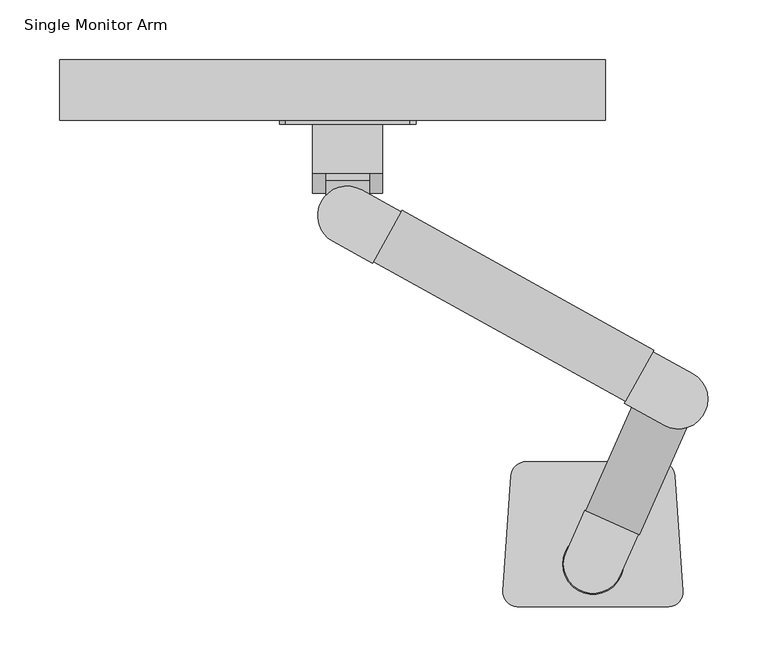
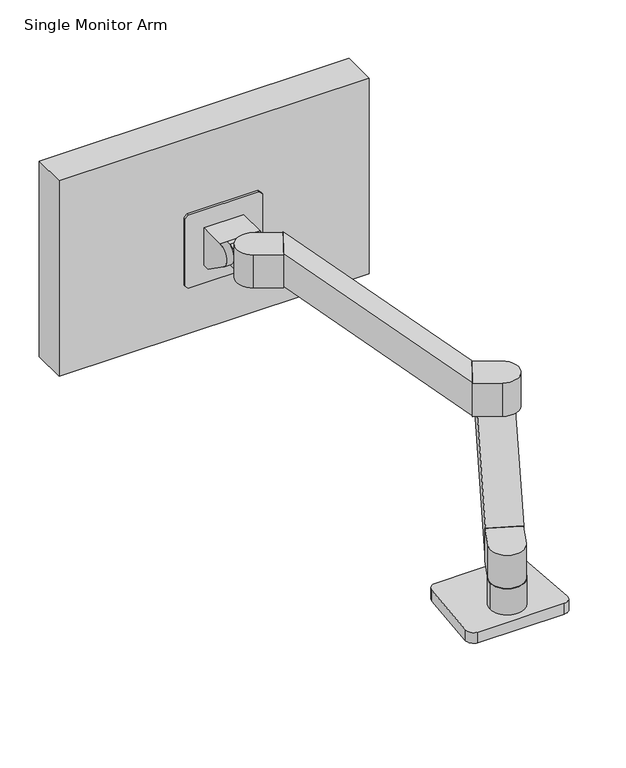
"""IFC4 building model written with IfcOpenShell, lengths in millimetres: furniture geometry, Haworth_Ergotron_MonitorArm_LX Dual : Single Monitor Arm."""

from ifc_helpers import new_model, si_unit, point, frame, frame_2d, origin, origin_2d, place, context, project, spatial, polyline, circle_curve, ellipse_curve, trimmed, segment, composite_curve, outline, extrude, source, transform, mapped, element, save
from ifc_brep_helpers import plane_surface, cylinder_surface, advanced_brep


def single_monitor_arm_2e3e4fff(model_context):
    return source(origin(), model_context, "Body", "SolidModel", [
        advanced_brep(
        [(-234.9867613, 326.9752733, 1198.4054298), (-223.8742613, 326.9752733, 1198.4054298), (-187.3617613, 326.9752733, 1198.4054298), (-176.2492613, 326.9752733, 1198.4054298), (-176.2492613, 368.2502733, 1198.4054298), (-234.9867613, 368.2502733, 1198.4054298), (-223.8742613, 299.9877733, 1165.8616798), (-223.8742613, 320.6605799, 1165.8616798), (-187.3617613, 320.6605799, 1165.8616798), (-187.3617613, 299.9877733, 1165.8616798), (-223.8742613, 299.9877733, 1188.9613663), (-223.8742613, 320.8989576, 1197.2367104), (-223.8742613, 317.4502733, 1168.1178601), (-187.3617613, 317.4502733, 1168.1178601), (-187.3617613, 320.8989576, 1197.2367104), (-187.3617613, 299.9877733, 1188.9613663), (-205.6180113, 281.7315233, 1181.7366798), (-234.9867613, 317.4502733, 1168.1178601), (-234.9867613, 320.8989576, 1197.2367104), (-234.9867613, 368.2502733, 1139.6679298), (-234.9867613, 357.9315233, 1139.6679298), (-176.2492613, 320.8989576, 1197.2367104), (-176.2492613, 317.4502733, 1168.1178601), (-176.2492613, 357.9315233, 1139.6679298), (-176.2492613, 368.2502733, 1139.6679298)],
        [
            (0, 1),
            (1, 2),
            (2, 3),
            (3, 4),
            (4, 5),
            (5, 0),
            (6, 7),
            (7, 8),
            (8, 9),
            (9, 6, circle_curve(frame((-205.6180113, 299.9877733, 1165.8616798), z_axis=(0.0, 0.0, -1.0), x_axis=(-1.0, 0.0, 0.0)), 18.25625)),
            (6, 10),
            (10, 11),
            (11, 12, circle_curve(frame((-223.8742613, 327.0287892, 1181.747078), z_axis=(1.0, 0.0, 0.0), x_axis=(0.0, -1.0, 0.0)), 16.6584377)),
            (12, 7),
            (8, 13),
            (13, 14, circle_curve(frame((-187.3617613, 327.0287892, 1181.747078), z_axis=(-1.0, 0.0, 0.0), x_axis=(0.0, -1.0, 0.0)), 16.6584377)),
            (14, 15),
            (15, 9),
            (15, 16, ellipse_curve(frame((-205.6180113, 299.9877733, 1188.9613663), z_axis=(0.0, 0.3679715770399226, -0.9298370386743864), x_axis=(0.0, 0.9298370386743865, 0.3679715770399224)), 19.6338167, 18.25625)),
            (16, 10, ellipse_curve(frame((-205.6180113, 299.9877733, 1188.9613663), z_axis=(0.0, 0.3679715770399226, -0.9298370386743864), x_axis=(0.0, 0.9298370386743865, 0.3679715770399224)), 19.6338167, 18.25625)),
            (14, 11),
            (14, 2, circle_curve(frame((-187.3617613, 327.0287892, 1181.747078), z_axis=(-1.0, 0.0, 0.0), x_axis=(0.0, -1.0, 0.0)), 16.6584377)),
            (1, 11, circle_curve(frame((-223.8742613, 327.0287892, 1181.747078), z_axis=(1.0, 0.0, 0.0), x_axis=(0.0, -1.0, 0.0)), 16.6584377)),
            (17, 18, circle_curve(frame((-234.9867613, 327.0287892, 1181.747078), z_axis=(-1.0, 0.0, 0.0), x_axis=(0.0, -1.0, 0.0)), 16.6584377)),
            (18, 0, circle_curve(frame((-234.9867613, 327.0287892, 1181.747078), z_axis=(-1.0, 0.0, 0.0), x_axis=(0.0, -1.0, 0.0)), 16.6584377)),
            (5, 19),
            (19, 20),
            (20, 17),
            (3, 21, circle_curve(frame((-176.2492613, 327.0287892, 1181.747078), z_axis=(1.0, 0.0, 0.0), x_axis=(0.0, -1.0, 0.0)), 16.6584377)),
            (21, 22, circle_curve(frame((-176.2492613, 327.0287892, 1181.747078), z_axis=(1.0, 0.0, 0.0), x_axis=(0.0, -1.0, 0.0)), 16.6584377)),
            (22, 23),
            (23, 24),
            (24, 4),
            (17, 12),
            (13, 22),
            (20, 23),
            (19, 24),
        ],
        [
            plane_surface(frame((-223.8742613, 299.9877733, 1198.4054298), z_axis=(0.0, 0.0, 1.0), x_axis=(0.0, 1.0, 0.0))),
            plane_surface(frame((-223.8742613, 299.9877733, 1165.8616798), z_axis=(0.0, 0.0, -1.0), x_axis=(0.0, -1.0, 0.0))),
            plane_surface(frame((-223.8742613, 299.9877733, 1198.4054298), z_axis=(-1.0, 0.0, 0.0), x_axis=(0.0, 0.0, -1.0))),
            plane_surface(frame((-187.3617613, 326.9752733, 1198.4054298), z_axis=(1.0, 0.0, 0.0), x_axis=(0.0, 0.0, -1.0))),
            cylinder_surface(frame((-205.6180113, 299.9877733, 1165.8616798), z_axis=(0.0, 0.0, 1.0), x_axis=(-1.0, 0.0, 0.0)), 18.25625),
            plane_surface(frame((-237.3680113, 281.7315233, 1181.7366798), z_axis=(0.0, -0.3679715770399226, 0.9298370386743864), x_axis=(1.0, 0.0, 0.0))),
            cylinder_surface(frame((-173.8680113, 327.0287892, 1181.747078), z_axis=(1.0, 0.0, 0.0), x_axis=(0.0, -1.0, 0.0)), 16.6584377),
            plane_surface(frame((-234.9867613, 310.3703515, 1181.747078), z_axis=(-1.0, 0.0, 0.0), x_axis=(0.0, 0.0, -1.0))),
            plane_surface(frame((-176.2492613, 310.3703515, 1181.747078), z_axis=(1.0, 0.0, 0.0), x_axis=(0.0, 0.0, 1.0))),
            cylinder_surface(frame((-176.2492613, 327.0287892, 1181.747078), z_axis=(-1.0, 0.0, 0.0), x_axis=(0.0, -1.0, 0.0)), 16.6584377),
            plane_surface(frame((-234.9867613, 317.4502733, 1168.1178601), z_axis=(0.0, -0.574994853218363, -0.8181570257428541), x_axis=(1.0, 0.0, 0.0))),
            plane_surface(frame((-234.9867613, 357.9315233, 1139.6679298), z_axis=(0.0, 0.0, -1.0), x_axis=(1.0, 0.0, 0.0))),
            plane_surface(frame((-234.9867613, 368.2502733, 1139.6679298), z_axis=(0.0, 1.0, 0.0), x_axis=(1.0, 0.0, 0.0))),
        ],
        [
            (0, [[1, 2, 3, 4, 5, 6]]),
            (1, [[7, 8, 9, 10]]),
            (2, [[11, 12, 13, 14, -7]]),
            (3, [[15, 16, 17, 18, -9]]),
            (4, [[-18, 19, 20, -11, -10]]),
            (5, [[-12, -20, -19, -17, 21]]),
            (6, [[22, -2, 23, -21]]),
            (7, [[24, 25, -6, 26, 27, 28]]),
            (8, [[29, 30, 31, 32, 33, -4]]),
            (9, [[-25, -24, 34, -13, -23, -1]]),
            (9, [[-22, -16, 35, -30, -29, -3]]),
            (10, [[36, -31, -35, -15, -8, -14, -34, -28]]),
            (11, [[37, -32, -36, -27]]),
            (12, [[-5, -33, -37, -26]]),
        ],
    ),
        extrude(outline(polyline([(1226.1866798, -153.2305113), (1226.1866798, -258.0055113), (1221.4241798, -262.7680113), (1116.6491798, -262.7680113), (1111.8866798, -258.0055113), (1111.8866798, -153.2305113), (1116.6491798, -148.4680113), (1221.4241798, -148.4680113), (1226.1866798, -153.2305113)])), frame((0.0, 368.2502733, 0.0), z_axis=(0.0, 1.0, 0.0), x_axis=(0.0, 0.0, 1.0)), (0.0, 0.0, 1.0), 3.175),
        extrude(outline(polyline([(10.2819887, 422.2252733), (10.2819887, 371.4252733), (-446.9180113, 371.4252733), (-446.9180113, 422.2252733), (10.2819887, 422.2252733)])), frame((0.0, 0.0, 1038.8616798), z_axis=(0.0, 0.0, 1.0), x_axis=(1.0, 0.0, 0.0)), (0.0, 0.0, 1.0), 304.8),
        extrude(outline(polyline([(-25.796875, 0.0), (115.490625, 133.3499999), (166.290625, 133.3499999), (25.796875, 0.0), (-25.796875, 0.0)])), frame((38.797111, 24.6914673, 820.2720058), z_axis=(-0.9135454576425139, 0.40673664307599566, 0.0), x_axis=(0.0, 0.0, 1.0)), (0.0, 0.0, 1.0), 49.2125),
        extrude(outline(composite_curve([segment(polyline([(-22.4789279, 10.0082635), (-6.9822618, 44.8143455), (37.975594, 24.7978184), (22.4789279, -10.0082635)]), True, "CONTINUOUS"), segment(trimmed(circle_curve(origin_2d(), 24.60625), [point((22.4789279, -10.0082635))], [point((-22.4789279, 10.0082635))], False, "CARTESIAN"), True, "CONTINUOUS")], self_intersect=False)), frame((0.0, 0.0, 794.4751308), z_axis=(0.0, 0.0, 1.0), x_axis=(1.0, 0.0, 0.0)), (0.0, 0.0, 1.0), 51.59375),
        extrude(outline(composite_curve([segment(polyline([(-194.1166001, 313.2106039), (-160.7935893, 294.7393574), (-184.6522827, 251.6971351), (-217.9752936, 270.1683816)]), True, "CONTINUOUS"), segment(trimmed(circle_curve(frame_2d((-206.0459469, 291.6894928)), 24.60625), [point((-217.9752936, 270.1683816))], [point((-194.1166001, 313.2106039))], False, "CARTESIAN"), True, "CONTINUOUS")], self_intersect=False)), frame((0.0, 0.0, 1158.2891061), z_axis=(0.0, 0.0, 1.0), x_axis=(1.0, 0.0, 0.0)), (0.0, 0.0, 1.0), 51.3858939),
        extrude(outline(polyline([(-25.796875, 0.0), (-229.790625, 241.3000001), (-178.990625, 241.3000001), (25.796875, 0.0), (-25.796875, 0.0)])), frame((27.1630879, 136.1010325, 979.884375), z_axis=(0.4848096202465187, 0.8746197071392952, 0.0), x_axis=(0.0, 0.0, -1.0)), (0.0, 0.0, 1.0), 49.2125),
        extrude(outline(composite_curve([segment(polyline([(59.7164634, 116.2413272), (26.3934526, 134.7125737), (50.252146, 177.754796), (83.5751569, 159.2835495)]), True, "CONTINUOUS"), segment(trimmed(circle_curve(frame_2d((71.6458101, 137.7624383)), 24.60625), [point((83.5751569, 159.2835495))], [point((59.7164634, 116.2413272))], False, "CARTESIAN"), True, "CONTINUOUS")], self_intersect=False)), frame((0.0, 0.0, 954.0875), z_axis=(0.0, 0.0, 1.0), x_axis=(1.0, 0.0, 0.0)), (0.0, 0.0, 1.0), 51.59375),
        extrude(outline(composite_curve([segment(polyline([(-75.3302307, -22.4073223), (-68.5984812, 73.8611805)]), True, "CONTINUOUS"), segment(trimmed(circle_curve(frame_2d((-55.9294177, 72.9752733)), 12.7), [point((-68.5984812, 73.8611805))], [point((-55.9294177, 85.6752733))], False, "CARTESIAN"), True, "CONTINUOUS"), segment(polyline([(-55.9294177, 85.6752733), (55.9294177, 85.6752733)]), True, "CONTINUOUS"), segment(trimmed(circle_curve(frame_2d((55.9294177, 72.9752733)), 12.7), [point((55.9294177, 85.6752733))], [point((68.5984812, 73.8611805))], False, "CARTESIAN"), True, "CONTINUOUS"), segment(polyline([(68.5984812, 73.8611805), (75.3302307, -22.4073223)]), True, "CONTINUOUS"), segment(trimmed(circle_curve(frame_2d((62.6611672, -23.2932295)), 12.7), [point((75.3302307, -22.4073223))], [point((63.6792792, -35.9523546))], False, "CARTESIAN"), True, "CONTINUOUS"), segment(trimmed(circle_curve(frame_2d((0.0, 755.8308364)), 794.3397712), [point((63.6792792, -35.9523546))], [point((-63.6792792, -35.9523546))], False, "CARTESIAN"), True, "CONTINUOUS"), segment(trimmed(circle_curve(frame_2d((-62.6611672, -23.2932295)), 12.7), [point((-63.6792792, -35.9523546))], [point((-75.3302307, -22.4073223))], False, "CARTESIAN"), True, "CONTINUOUS")], self_intersect=False)), frame((0.0, 0.0, 736.6), z_axis=(0.0, 0.0, 1.0), x_axis=(1.0, 0.0, 0.0)), (0.0, 0.0, 1.0), 16.66875),
        extrude(outline(composite_curve([segment(trimmed(circle_curve(origin_2d(), 25.4), [point((-25.4, 0.0))], [point((25.4, 0.0))], False, "CARTESIAN"), True, "CONTINUOUS"), segment(trimmed(circle_curve(origin_2d(), 25.4), [point((25.4, 0.0))], [point((-25.4, 0.0))], False, "CARTESIAN"), True, "CONTINUOUS")], self_intersect=False)), frame((0.0, 0.0, 753.26875), z_axis=(0.0, 0.0, 1.0), x_axis=(1.0, 0.0, 0.0)), (0.0, 0.0, 1.0), 41.2063808),
    ])


if __name__ == "__main__":
    model = new_model("IFC4")
    model_context = context("Model", 3, world=origin())
    ifc_project = project(units=[si_unit("LENGTHUNIT", "METRE", prefix="MILLI")], contexts=[model_context])
    site = spatial("IfcSite", under=ifc_project)
    building = spatial("IfcBuilding", under=site)
    placement = place(None, origin())
    single_monitor_arm_shape = single_monitor_arm_2e3e4fff(model_context)
    element("IfcFurniture", 1, ObjectType="Haworth_Ergotron_MonitorArm_LX Dual : Single Monitor Arm", at=placement, inside=building, context=model_context, shape_type="MappedRepresentation", body=[
        mapped(single_monitor_arm_shape, transform((0.0, 0.0, 0.0), x_axis=(1.0, 0.0, 0.0), y_axis=(0.0, 1.0, 0.0), z_axis=(0.0, 0.0, 1.0))),
    ])
    save(model, "model.ifc")
